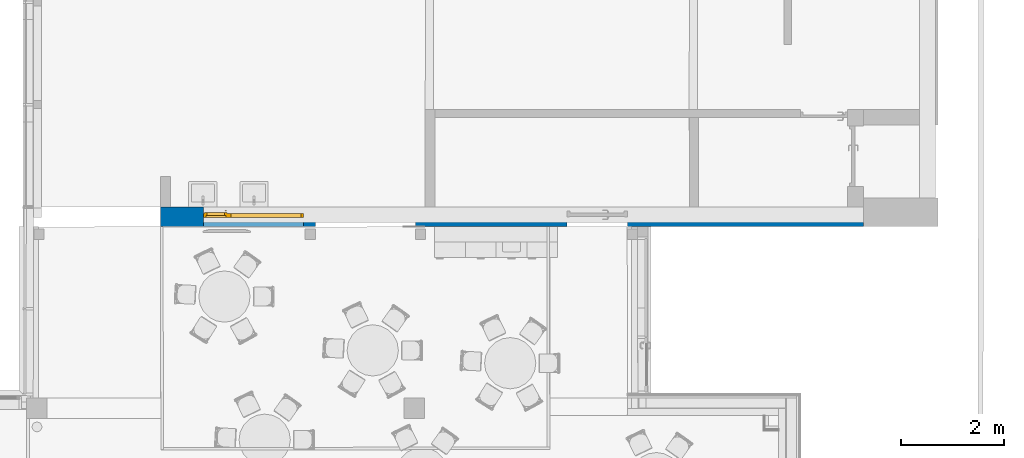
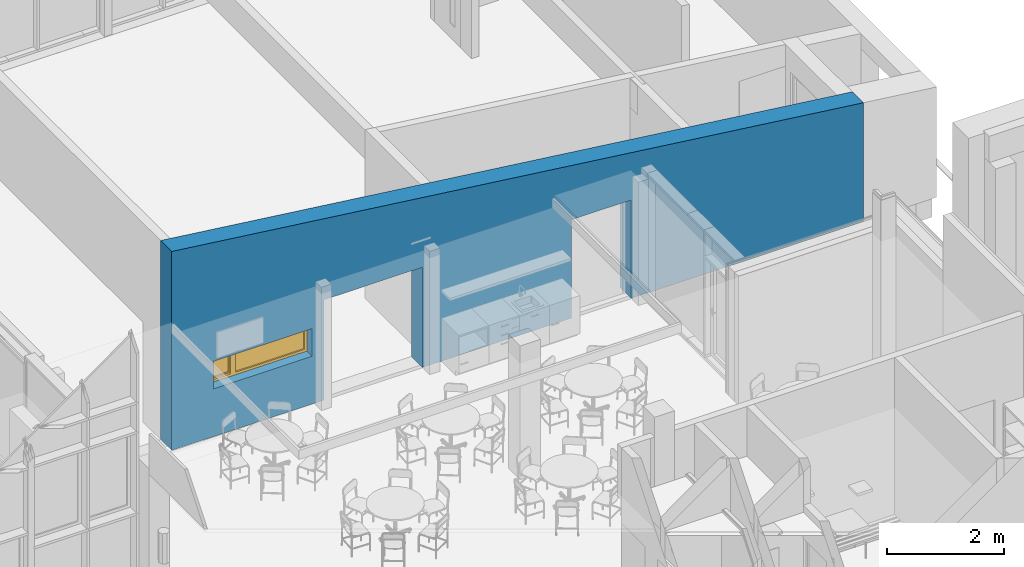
# One storey, part 131 of 301: 1 wall, 1 window, 5 openings.
"""IFC2X3 building model written with IfcOpenShell, lengths in millimetres."""

from ifc_helpers import new_model, entity, si_unit, converted_unit, derived_unit, money_unit, direction, frame, origin_with_axes, place, context, subcontext, project, spatial, open_shell, faceted_brep, surface_model, material, type_object, element, fill, save


model = new_model("IFC2X3")

# Units and contexts
model_context = context("Model", 3, precision=0.01, world=origin_with_axes(), true_north=direction((0.0, 1.0)))
body_context = subcontext(model_context, "Body", "Model", "MODEL_VIEW")
ifc_project = project(units=[si_unit("LENGTHUNIT", "METRE", prefix="MILLI"), si_unit("AREAUNIT", "SQUARE_METRE"), si_unit("VOLUMEUNIT", "CUBIC_METRE"), converted_unit("PLANEANGLEUNIT", "DEGREE", entity("IfcPlaneAngleMeasure", 0.0174532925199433), si_unit("PLANEANGLEUNIT", "RADIAN"), dimensions=[0, 0, 0, 0, 0, 0, 0]), money_unit("EUR"), converted_unit("TIMEUNIT", "Year", entity("IfcTimeMeasure", 31557600.0), si_unit("TIMEUNIT", "SECOND"), dimensions=[0, 0, 1, 0, 0, 0, 0]), si_unit("MASSUNIT", "GRAM", prefix="KILO"), si_unit("THERMODYNAMICTEMPERATUREUNIT", "DEGREE_CELSIUS"), si_unit("LUMINOUSINTENSITYUNIT", "LUMEN"), si_unit("ENERGYUNIT", "JOULE", prefix="MEGA"), derived_unit("THERMALCONDUCTANCEUNIT", [(si_unit("POWERUNIT", "WATT"), 1), (si_unit("LENGTHUNIT", "METRE"), -1), (si_unit("THERMODYNAMICTEMPERATUREUNIT", "KELVIN"), -1)]), derived_unit("SPECIFICHEATCAPACITYUNIT", [(si_unit("ENERGYUNIT", "JOULE"), 1), (si_unit("MASSUNIT", "GRAM", prefix="KILO"), -1), (si_unit("THERMODYNAMICTEMPERATUREUNIT", "KELVIN"), -1)]), derived_unit("MASSDENSITYUNIT", [(si_unit("MASSUNIT", "GRAM", prefix="KILO"), 1), (si_unit("VOLUMEUNIT", "CUBIC_METRE"), -1)])], contexts=[model_context])

# Site, building, storey
site_placement = place(None, frame((0.0, 0.0, 8650.0), z_axis=(0.0, 0.0, 1.0), x_axis=(1.0, 0.0, 0.0)))
site = spatial("IfcSite", under=ifc_project, at=site_placement, Name="43301:001:0844", CompositionType="ELEMENT")
building_placement = place(site_placement, origin_with_axes())
building = spatial("IfcBuilding", under=site, at=building_placement, Name="Kuressaare Ametikooli tuulikute mehaanikute õppekorpus", CompositionType="ELEMENT")
storey_placement = place(building_placement, origin_with_axes())
storey = spatial("IfcBuildingStorey", under=building, at=storey_placement, Name="1.korrus", CompositionType="ELEMENT", Elevation=0.0)

# Wall, openings, window
ifc_material = material(Name="GENEERILINE - KONSTRUKTRIOON")
wall_type = type_object("IfcWallType", Name="GENEERILINE - KONSTRUKTRIOON 380", PredefinedType="NOTDEFINED")
wall_placement = place(storey_placement, frame((134679.3561716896, 31928.82728576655, 0.0), z_axis=(0.0, 0.0, 1.0), x_axis=(-1.0, 0.0, 0.0)))
wall = element("IfcWall", 1, at=wall_placement, inside=storey, type_object=wall_type, material=ifc_material, Name="VS-XX", context=body_context, shape_type="Brep", body=[
    faceted_brep([(13702.16668804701, -379.999999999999, 4167.942027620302), (0.0, -379.999999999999, 2485.527507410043), (0.0, -379.999999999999, 0.0), (4603.170296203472, -379.999999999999, 0.0), (4603.170296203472, -379.999999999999, 2060.0), (5783.17029620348, -379.999999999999, 2060.0), (5783.17029620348, -379.999999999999, 0.0), (8736.12513068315, -379.999999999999, 0.0), (8736.12513068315, -379.999999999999, 2100.0), (10686.12513068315, -379.999999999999, 2100.0), (10686.12513068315, -379.999999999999, 0.0), (13702.16668804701, -379.999999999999, 0.0), (10918.94200109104, -379.999999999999, 1000.0), (10918.94200109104, -379.999999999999, 1580.0), (12868.94200109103, -379.999999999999, 1580.0), (12868.94200109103, -379.999999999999, 1000.0), (0.0, -4.688374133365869e-07, 2485.527507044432), (13702.16668804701, -4.688374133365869e-07, 4167.942027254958), (0.0, 0.0, 0.0), (4603.170296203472, 0.0, 0.0), (4603.170296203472, -190.0000000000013, 0.0), (4603.170296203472, -190.0000000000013, 2060.0), (5783.17029620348, -190.0000000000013, 2060.0), (5783.17029620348, -190.0000000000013, 0.0), (5783.17029620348, 0.0, 0.0), (8736.12513068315, 0.0, 0.0), (8736.12513068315, 0.0, 2100.0), (10686.12513068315, 0.0, 2100.0), (10686.12513068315, 0.0, 0.0), (13702.16668804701, 0.0, 0.0), (10918.94200109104, -179.9999999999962, 1000.0), (10918.94200109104, -179.9999999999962, 1580.0), (12868.94200109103, -179.9999999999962, 1580.0), (12868.94200109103, -179.9999999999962, 1000.0), (5783.17029620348, 0.0, 2060.0), (4603.170296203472, 0.0, 2060.0), (10918.94200109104, 0.0, 1580.0), (10918.94200109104, 0.0, 1000.0), (12868.94200109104, 0.0, 1000.0), (12868.94200109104, 0.0, 1580.0)], [[[0, 1, 2, 3, 4, 5, 6, 7, 8, 9, 10, 11], [12, 13, 14, 15]], [[16, 1, 0, 17]], [[1, 16, 18, 2]], [[19, 20, 3, 2, 18]], [[21, 4, 3, 20]], [[22, 5, 4, 21]], [[23, 6, 5, 22]], [[7, 6, 23, 24, 25]], [[26, 8, 7, 25]], [[27, 9, 8, 26]], [[28, 10, 9, 27]], [[11, 10, 28, 29]], [[17, 0, 11, 29]], [[12, 30, 31, 13]], [[13, 31, 32, 14]], [[14, 32, 33, 15]], [[15, 33, 30, 12]], [[16, 17, 29, 28, 27, 26, 25, 24, 34, 35, 19, 18], [36, 37, 38, 39]], [[35, 21, 20, 19]], [[34, 22, 21, 35]], [[24, 23, 22, 34]], [[30, 37, 36, 31]], [[31, 36, 39, 32]], [[32, 39, 38, 33]], [[33, 38, 37, 30]]]),
])
opening_1_placement = place(wall_placement, frame((9711.125130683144, 0.0, 0.0), z_axis=(0.0, 0.0, 1.0), x_axis=(1.0, 0.0, 0.0)))
element("IfcOpeningElement", 2, at=opening_1_placement, cuts=wall, context=body_context, shape_type="Brep", body=[
    faceted_brep([(-974.9999999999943, -180.0000000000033, 0.0), (-974.9999999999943, -179.9999999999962, 2100.0), (-974.9999999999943, 1.000000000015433, 2100.0), (-974.9999999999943, 1.000000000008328, 0.0), (-974.9999999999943, -381.0000000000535, 0.0), (-974.9999999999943, -381.0000000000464, 2100.0), (975.0000000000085, -180.0000000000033, 2100.0), (975.0000000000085, 1.000000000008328, 2100.0), (975.0000000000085, 1.000000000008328, 0.0), (975.0000000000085, -180.0000000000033, 0.0), (975.0000000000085, -381.0000000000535, 0.0), (975.0000000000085, -381.0000000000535, 2100.0)], [[[0, 1, 2, 3]], [[1, 0, 4, 5]], [[1, 6, 7, 2]], [[8, 3, 2, 7]], [[9, 0, 3, 8]], [[0, 9, 10, 4]], [[5, 4, 10, 11]], [[6, 1, 5, 11]], [[6, 9, 8, 7]], [[9, 6, 11, 10]]]),
])
opening_2_placement = place(wall_placement, frame((11893.94200109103, 0.0, 1000.0), z_axis=(0.0, 0.0, 1.0), x_axis=(1.0, 0.0, 0.0)))
opening_2 = element("IfcOpeningElement", 3, at=opening_2_placement, cuts=wall, context=body_context, shape_type="Brep", body=[
    faceted_brep([(-974.9999999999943, -179.9999999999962, 0.0), (-974.9999999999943, -179.9999999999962, 580.0000000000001), (-974.9999999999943, 1.000000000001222, 580.0000000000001), (-974.9999999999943, 1.000000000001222, 0.0), (-974.9999999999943, -380.9999999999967, 0.0), (-974.9999999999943, -380.9999999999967, 580.0000000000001), (974.9999999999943, -179.9999999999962, 580.0000000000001), (975.0000000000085, 1.000000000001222, 580.0000000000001), (975.0000000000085, 1.000000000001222, 0.0), (974.9999999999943, -179.9999999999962, 0.0), (974.9999999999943, -380.9999999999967, 0.0), (974.9999999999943, -380.9999999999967, 580.0000000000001)], [[[0, 1, 2, 3]], [[1, 0, 4, 5]], [[1, 6, 7, 2]], [[7, 8, 3, 2]], [[9, 0, 3, 8]], [[0, 9, 10, 4]], [[5, 4, 10, 11]], [[6, 1, 5, 11]], [[6, 9, 8, 7]], [[9, 6, 11, 10]]]),
])
opening_3_placement = place(wall_placement, frame((9711.125130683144, 0.0, 0.0), z_axis=(0.0, 0.0, 1.0), x_axis=(1.0, 0.0, 0.0)))
element("IfcOpeningElement", 4, at=opening_3_placement, cuts=wall, Name="ava", context=body_context, shape_type="Brep", body=[
    faceted_brep([(-974.9999999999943, -99.99999999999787, 0.0), (-974.9999999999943, -99.99999999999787, 2100.0), (-974.9999999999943, 1.000000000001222, 2100.0), (-974.9999999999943, 1.000000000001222, 0.0), (-974.9999999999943, -380.9999999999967, 0.0), (-974.9999999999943, -380.9999999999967, 2100.0), (975.0000000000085, -99.99999999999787, 2100.0), (975.0000000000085, 1.000000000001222, 2100.0), (975.0000000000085, 1.000000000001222, 0.0), (975.0000000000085, -99.99999999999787, 0.0), (975.0000000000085, -380.9999999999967, 0.0), (975.0000000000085, -380.9999999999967, 2100.0)], [[[0, 1, 2, 3]], [[1, 0, 4, 5]], [[1, 6, 7, 2]], [[8, 3, 2, 7]], [[9, 0, 3, 8]], [[0, 9, 10, 4]], [[5, 4, 10, 11]], [[6, 1, 5, 11]], [[6, 9, 8, 7]], [[9, 6, 11, 10]]]),
])
opening_4_placement = place(wall_placement, frame((5193.170296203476, 0.0, 0.0), z_axis=(0.0, 0.0, 1.0), x_axis=(1.0, 0.0, 0.0)))
element("IfcOpeningElement", 5, at=opening_4_placement, cuts=wall, Name="TU9+3,EI30,dB", context=body_context, shape_type="Brep", body=[
    faceted_brep([(-590.0000000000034, -190.0000000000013, 0.0), (-590.0000000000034, -190.0000000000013, 2060.0), (-590.0000000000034, 1.000000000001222, 2060.0), (-590.0000000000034, 1.000000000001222, 0.0), (-590.0000000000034, -380.9999999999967, 0.0), (-590.0000000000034, -380.9999999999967, 2060.0), (590.0000000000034, -190.0000000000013, 2060.0), (590.0000000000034, 1.000000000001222, 2060.0), (590.0000000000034, 1.000000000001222, 0.0), (590.0000000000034, -190.0000000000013, 0.0), (590.0000000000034, -380.9999999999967, 0.0), (590.0000000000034, -380.9999999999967, 2060.0)], [[[0, 1, 2, 3]], [[1, 0, 4, 5]], [[1, 6, 7, 2]], [[7, 8, 3, 2]], [[9, 0, 3, 8]], [[0, 9, 10, 4]], [[5, 4, 10, 11]], [[6, 1, 5, 11]], [[6, 9, 8, 7]], [[9, 6, 11, 10]]]),
])
opening_5_placement = place(wall_placement, frame((5193.170296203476, 0.0, 0.0), z_axis=(0.0, 0.0, 1.0), x_axis=(1.0, 0.0, 0.0)))
element("IfcOpeningElement", 6, at=opening_5_placement, cuts=wall, context=body_context, shape_type="Brep", body=[
    faceted_brep([(-590.0000000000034, -190.0000000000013, 0.0), (-590.0000000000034, -190.0000000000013, 2060.0), (-590.0000000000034, 1.000000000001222, 2060.0), (-590.0000000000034, 1.000000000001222, 0.0), (-590.0000000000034, -380.9999999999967, 0.0), (-590.0000000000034, -380.9999999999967, 2060.0), (590.0000000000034, -190.0000000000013, 2060.0), (590.0000000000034, 1.000000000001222, 2060.0), (590.0000000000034, 1.000000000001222, 0.0), (590.0000000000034, -190.0000000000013, 0.0), (590.0000000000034, -380.9999999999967, 0.0), (590.0000000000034, -380.9999999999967, 2060.0)], [[[0, 1, 2, 3]], [[1, 0, 4, 5]], [[1, 6, 7, 2]], [[8, 3, 2, 7]], [[9, 0, 3, 8]], [[0, 9, 10, 4]], [[5, 4, 10, 11]], [[6, 1, 5, 11]], [[6, 9, 8, 7]], [[9, 6, 11, 10]]]),
])
window_style = type_object("IfcWindowStyle", Name="Double Window 27", ConstructionType="NOTDEFINED", OperationType="DOUBLE_PANEL_VERTICAL", ParameterTakesPrecedence=False, Sizeable=False)
window_placement = place(opening_2_placement, frame((974.9999999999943, 0.0, 0.0), z_axis=(0.0, 0.0, 1.0), x_axis=(-1.0, 0.0, 0.0)))
window = element("IfcWindow", 7, at=window_placement, inside=storey, type_object=window_style, OverallHeight=580.0, OverallWidth=1950.0, context=body_context, shape_type="SurfaceModel", body=[
    faceted_brep([(49.99999999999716, 220.0000000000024, 529.9999999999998), (24.99999999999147, 220.0000000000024, 529.9999999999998), (24.99999999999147, 254.999999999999, 529.9999999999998), (0.0, 254.999999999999, 529.9999999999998), (0.0, 179.9999999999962, 529.9999999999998), (49.99999999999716, 179.9999999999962, 529.9999999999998), (49.99999999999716, 220.0000000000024, 50.00000000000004), (24.99999999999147, 220.0000000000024, 50.00000000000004), (24.99999999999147, 254.999999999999, 50.00000000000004), (0.0, 254.999999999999, 50.00000000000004), (0.0, 179.9999999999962, 50.00000000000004), (49.99999999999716, 179.9999999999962, 50.00000000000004)], [[[0, 1, 2, 3, 4, 5]], [[1, 0, 6, 7]], [[8, 2, 1, 7]], [[2, 8, 9, 3]], [[9, 10, 4, 3]], [[10, 11, 5, 4]], [[6, 0, 5, 11]], [[7, 6, 11, 10, 9, 8]]]),
    faceted_brep([(464.9999999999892, 254.999999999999, 529.9999999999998), (464.9999999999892, 220.0000000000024, 529.9999999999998), (439.9999999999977, 220.0000000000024, 529.9999999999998), (439.9999999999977, 179.9999999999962, 529.9999999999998), (539.999999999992, 179.9999999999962, 529.9999999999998), (539.999999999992, 254.999999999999, 529.9999999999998), (464.9999999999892, 254.999999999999, 50.00000000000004), (464.9999999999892, 220.0000000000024, 49.99999999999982), (439.9999999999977, 220.0000000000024, 50.00000000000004), (439.9999999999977, 179.9999999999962, 50.00000000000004), (539.999999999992, 179.9999999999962, 50.00000000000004), (539.999999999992, 254.999999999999, 50.00000000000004)], [[[0, 1, 2, 3, 4, 5]], [[1, 0, 6, 7]], [[8, 2, 1, 7]], [[2, 8, 9, 3]], [[9, 10, 4, 3]], [[5, 4, 10, 11]], [[6, 0, 5, 11]], [[7, 6, 11, 10, 9, 8]]]),
    faceted_brep([(49.99999999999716, 220.0000000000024, 50.00000000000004), (24.99999999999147, 220.0000000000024, 50.00000000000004), (24.99999999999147, 254.999999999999, 50.00000000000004), (0.0, 254.999999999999, 50.00000000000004), (0.0, 179.9999999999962, 50.00000000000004), (49.99999999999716, 179.9999999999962, 50.00000000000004), (439.9999999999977, 220.0000000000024, 50.00000000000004), (464.9999999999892, 220.0000000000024, 49.99999999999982), (464.9999999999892, 220.0000000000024, 24.99999999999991), (24.99999999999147, 220.0000000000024, 24.99999999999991), (24.99999999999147, 254.999999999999, 25.00000000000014), (464.9999999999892, 254.999999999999, 25.00000000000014), (464.9999999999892, 254.999999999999, 50.00000000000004), (539.999999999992, 254.999999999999, 50.00000000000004), (1899.999999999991, 254.999999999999, 50.00000000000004), (1949.999999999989, 254.999999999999, 50.00000000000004), (1949.999999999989, 254.999999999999, 0.0), (0.0, 254.999999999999, 0.0), (0.0, 179.9999999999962, 0.0), (1949.999999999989, 179.9999999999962, 50.00000000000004), (1899.999999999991, 179.9999999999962, 50.00000000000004), (539.999999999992, 179.9999999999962, 50.00000000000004), (439.9999999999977, 179.9999999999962, 50.00000000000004), (1949.999999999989, 179.9999999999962, 0.0)], [[[0, 1, 2, 3, 4, 5]], [[1, 0, 6, 7, 8, 9]], [[10, 2, 1, 9]], [[11, 12, 13, 14, 15, 16, 17, 3, 2, 10]], [[17, 18, 4, 3]], [[19, 20, 21, 22, 5, 4, 18, 23]], [[6, 0, 5, 22]], [[7, 6, 22, 21, 13, 12]], [[7, 12, 11, 8]], [[11, 10, 9, 8]], [[13, 21, 20, 14]], [[14, 20, 19, 15]], [[15, 19, 23, 16]], [[16, 23, 18, 17]]]),
    faceted_brep([(464.9999999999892, 254.999999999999, 529.9999999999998), (464.9999999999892, 254.999999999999, 554.9999999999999), (24.99999999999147, 254.999999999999, 554.9999999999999), (24.99999999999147, 254.999999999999, 529.9999999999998), (0.0, 254.999999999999, 529.9999999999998), (0.0, 254.999999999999, 580.0000000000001), (1949.999999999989, 254.999999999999, 580.0000000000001), (1949.999999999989, 254.999999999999, 529.9999999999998), (1899.999999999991, 254.999999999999, 529.9999999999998), (539.999999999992, 254.999999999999, 529.9999999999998), (464.9999999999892, 220.0000000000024, 529.9999999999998), (464.9999999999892, 220.0000000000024, 554.9999999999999), (24.99999999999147, 220.0000000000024, 554.9999999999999), (24.99999999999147, 220.0000000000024, 529.9999999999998), (49.99999999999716, 220.0000000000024, 529.9999999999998), (49.99999999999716, 179.9999999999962, 529.9999999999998), (0.0, 179.9999999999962, 529.9999999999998), (0.0, 179.9999999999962, 580.0000000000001), (1949.999999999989, 179.9999999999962, 580.0000000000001), (1949.999999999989, 179.9999999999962, 529.9999999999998), (1899.999999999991, 179.9999999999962, 529.9999999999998), (539.999999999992, 179.9999999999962, 529.9999999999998), (439.9999999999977, 179.9999999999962, 529.9999999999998), (439.9999999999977, 220.0000000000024, 529.9999999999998)], [[[0, 1, 2, 3, 4, 5, 6, 7, 8, 9]], [[1, 0, 10, 11]], [[2, 1, 11, 12]], [[3, 2, 12, 13]], [[13, 14, 15, 16, 4, 3]], [[4, 16, 17, 5]], [[5, 17, 18, 6]], [[6, 18, 19, 7]], [[7, 19, 20, 8]], [[8, 20, 21, 9]], [[10, 0, 9, 21, 22, 23]], [[14, 13, 12, 11, 10, 23]], [[14, 23, 22, 15]], [[22, 21, 20, 19, 18, 17, 16, 15]]]),
    faceted_brep([(1899.999999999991, 179.9999999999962, 529.9999999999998), (1949.999999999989, 179.9999999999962, 529.9999999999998), (1949.999999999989, 254.999999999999, 529.9999999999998), (1899.999999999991, 254.999999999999, 529.9999999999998), (1899.999999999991, 179.9999999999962, 50.00000000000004), (1949.999999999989, 179.9999999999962, 50.00000000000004), (1949.999999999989, 254.999999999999, 50.00000000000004), (1899.999999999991, 254.999999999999, 50.00000000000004)], [[[0, 1, 2, 3]], [[0, 4, 5, 1]], [[1, 5, 6, 2]], [[3, 2, 6, 7]], [[4, 0, 3, 7]], [[5, 4, 7, 6]]]),
    surface_model("IfcShellBasedSurfaceModel", [(1899.999999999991, 209.9999999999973, 50.00000000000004), (1899.999999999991, 209.9999999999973, 529.9999999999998), (539.999999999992, 209.9999999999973, 529.9999999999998), (539.999999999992, 209.9999999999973, 50.00000000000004)], [open_shell([[[0, 1, 2, 3]]])]),
    surface_model("IfcShellBasedSurfaceModel", [(1899.999999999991, 230.0000000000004, 50.00000000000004), (539.999999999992, 230.0000000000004, 50.00000000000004), (539.999999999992, 230.0000000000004, 529.9999999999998), (1899.999999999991, 230.0000000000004, 529.9999999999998)], [open_shell([[[0, 1, 2, 3]]])]),
    faceted_brep([(455.9999999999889, 269.9999999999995, 316.9999999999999), (455.9999999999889, 282.0, 316.9999999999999), (454.6602540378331, 282.0, 322.0000000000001), (454.6602540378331, 269.9999999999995, 322.0000000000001), (455.9999999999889, 269.9999999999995, 262.9999999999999), (455.9999999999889, 282.0, 262.9999999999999), (454.6602540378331, 282.0, 258.0), (450.9999999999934, 282.0, 254.3397459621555), (445.999999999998, 282.0, 253.0000000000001), (433.9999999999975, 282.0, 253.0000000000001), (428.9999999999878, 282.0, 254.3397459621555), (425.3397459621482, 282.0, 258.0), (423.9999999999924, 282.0, 262.9999999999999), (423.9999999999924, 282.0, 316.9999999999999), (425.3397459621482, 282.0, 322.0000000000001), (428.9999999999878, 282.0, 325.6602540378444), (433.9999999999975, 282.0, 326.9999999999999), (445.999999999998, 282.0, 326.9999999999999), (450.9999999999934, 282.0, 325.6602540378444), (450.9999999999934, 269.9999999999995, 325.6602540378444), (445.999999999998, 269.9999999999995, 326.9999999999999), (433.9999999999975, 269.9999999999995, 326.9999999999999), (428.9999999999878, 269.9999999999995, 325.6602540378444), (425.3397459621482, 269.9999999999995, 322.0000000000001), (423.9999999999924, 269.9999999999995, 316.9999999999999), (423.9999999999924, 269.9999999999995, 262.9999999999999), (425.3397459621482, 269.9999999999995, 258.0), (428.9999999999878, 269.9999999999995, 254.3397459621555), (433.9999999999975, 269.9999999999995, 253.0000000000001), (445.999999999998, 269.9999999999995, 253.0000000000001), (450.9999999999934, 269.9999999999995, 254.3397459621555), (454.6602540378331, 269.9999999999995, 258.0)], [[[0, 1, 2, 3]], [[4, 5, 1, 0]], [[1, 5, 6, 7, 8, 9, 10, 11, 12, 13, 14, 15, 16, 17, 18, 2]], [[3, 2, 18, 19]], [[0, 3, 19, 20, 21, 22, 23, 24, 25, 26, 27, 28, 29, 30, 31, 4]], [[31, 6, 5, 4]], [[30, 7, 6, 31]], [[29, 8, 7, 30]], [[28, 9, 8, 29]], [[27, 10, 9, 28]], [[26, 11, 10, 27]], [[25, 12, 11, 26]], [[24, 13, 12, 25]], [[23, 14, 13, 24]], [[22, 15, 14, 23]], [[21, 16, 15, 22]], [[20, 17, 16, 21]], [[19, 18, 17, 20]]]),
    faceted_brep([(439.9999999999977, 282.0, 303.5000000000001), (439.9999999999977, 306.0000000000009, 303.5000000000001), (433.2499999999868, 306.0000000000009, 301.6913429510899), (433.2499999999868, 282.0, 301.6913429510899), (446.7499999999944, 282.0, 301.6913429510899), (446.7499999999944, 306.0000000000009, 301.6913429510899), (451.6913429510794, 306.0000000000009, 296.7499999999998), (453.4999999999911, 306.0000000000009, 290.0000000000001), (451.6913429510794, 306.0000000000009, 283.25), (446.7499999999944, 306.0000000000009, 278.3086570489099), (439.9999999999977, 306.0000000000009, 276.4999999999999), (433.2499999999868, 306.0000000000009, 278.3086570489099), (428.3086570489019, 306.0000000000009, 283.25), (426.4999999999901, 306.0000000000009, 290.0000000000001), (428.3086570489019, 306.0000000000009, 296.7499999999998), (428.3086570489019, 282.0, 296.7499999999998), (426.4999999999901, 282.0, 290.0000000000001), (428.3086570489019, 282.0, 283.25), (433.2499999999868, 282.0, 278.3086570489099), (439.9999999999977, 282.0, 276.4999999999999), (446.7499999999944, 282.0, 278.3086570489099), (451.6913429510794, 282.0, 283.25), (453.4999999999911, 282.0, 290.0000000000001), (451.6913429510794, 282.0, 296.7499999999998)], [[[0, 1, 2, 3]], [[4, 5, 1, 0]], [[1, 5, 6, 7, 8, 9, 10, 11, 12, 13, 14, 2]], [[3, 2, 14, 15]], [[0, 3, 15, 16, 17, 18, 19, 20, 21, 22, 23, 4]], [[23, 6, 5, 4]], [[22, 7, 6, 23]], [[21, 8, 7, 22]], [[20, 9, 8, 21]], [[19, 10, 9, 20]], [[18, 11, 10, 19]], [[17, 12, 11, 18]], [[16, 13, 12, 17]], [[15, 14, 13, 16]]]),
    faceted_brep([(451.4999999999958, 306.0000000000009, 183.0000000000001), (453.4999999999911, 306.0000000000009, 185.9999999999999), (453.4999999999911, 306.0000000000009, 290.0000000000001), (451.6913429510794, 306.0000000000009, 296.7499999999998), (446.7499999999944, 306.0000000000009, 301.6913429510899), (439.9999999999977, 306.0000000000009, 303.5000000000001), (433.2499999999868, 306.0000000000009, 301.6913429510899), (428.3086570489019, 306.0000000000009, 296.7500000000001), (426.4999999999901, 306.0000000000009, 290.0000000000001), (426.4999999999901, 306.0000000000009, 185.9999999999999), (428.4999999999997, 306.0000000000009, 183.0000000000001), (439.9999999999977, 306.0000000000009, 179.9999999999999), (451.5000000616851, 313.9999999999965, 183.0000001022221), (453.5000003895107, 313.9999999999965, 185.9999996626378), (453.5000003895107, 313.9999999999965, 289.9999999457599), (451.6913430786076, 313.9999999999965, 296.7499996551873), (446.7499997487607, 313.9999999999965, 301.6913429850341), (440.0000000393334, 313.9999999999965, 303.5000002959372), (433.250000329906, 313.9999999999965, 301.6913429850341), (428.3086570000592, 313.9999999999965, 296.7499996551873), (426.4999996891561, 313.9999999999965, 289.9999999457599), (426.4999996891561, 313.9999999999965, 185.9999996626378), (428.5000000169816, 313.9999999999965, 183.0000001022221), (440.0000000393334, 313.9999999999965, 179.9999996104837), (449.6374625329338, 316.9999995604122, 185.6145196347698), (450.5000008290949, 316.9999995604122, 186.9083266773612), (450.5000008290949, 316.9999995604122, 289.6050424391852), (449.00161710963, 316.9999995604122, 295.197085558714), (445.197085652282, 316.9999995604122, 299.001617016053), (440.0000000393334, 316.9999995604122, 300.3941721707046), (434.8029144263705, 316.9999995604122, 299.001617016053), (430.9983829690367, 316.9999995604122, 295.197085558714), (429.4999992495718, 316.9999995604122, 289.6050424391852), (429.4999992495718, 316.9999995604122, 186.9083266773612), (430.3625375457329, 316.9999995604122, 185.6145196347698), (440.0000000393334, 316.9999995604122, 183.1003985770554)], [[[0, 1, 2, 3, 4, 5, 6, 7, 8, 9, 10, 11]], [[0, 12, 13, 1]], [[1, 13, 14, 2]], [[2, 14, 15, 3]], [[3, 15, 16, 4]], [[4, 16, 17, 5]], [[5, 17, 18, 6]], [[6, 18, 19, 7]], [[7, 19, 20, 8]], [[8, 20, 21, 9]], [[9, 21, 22, 10]], [[10, 22, 23, 11]], [[11, 23, 12, 0]], [[12, 24, 25, 13]], [[13, 25, 26, 14]], [[14, 26, 27, 15]], [[15, 27, 28, 16]], [[16, 28, 29, 17]], [[17, 29, 30, 18]], [[18, 30, 31, 19]], [[19, 31, 32, 20]], [[20, 32, 33, 21]], [[21, 33, 34, 22]], [[22, 34, 35, 23]], [[23, 35, 24, 12]], [[34, 33, 32, 31, 30, 29, 28, 27, 26, 25, 24, 35]]]),
    faceted_brep([(414.999999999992, 220.0000000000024, 504.9999999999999), (464.9999999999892, 220.0000000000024, 504.9999999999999), (464.9999999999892, 269.9999999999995, 504.9999999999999), (414.999999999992, 269.9999999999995, 504.9999999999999), (414.999999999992, 220.0000000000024, 74.99999999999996), (464.9999999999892, 220.0000000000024, 74.99999999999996), (464.9999999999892, 269.9999999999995, 74.99999999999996), (414.999999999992, 269.9999999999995, 74.99999999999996)], [[[0, 1, 2, 3]], [[0, 4, 5, 1]], [[1, 5, 6, 2]], [[3, 2, 6, 7]], [[4, 0, 3, 7]], [[5, 4, 7, 6]]]),
    faceted_brep([(74.99999999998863, 220.0000000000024, 74.99999999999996), (24.99999999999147, 220.0000000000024, 74.99999999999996), (24.99999999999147, 269.9999999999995, 74.99999999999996), (74.99999999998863, 269.9999999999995, 74.99999999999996), (74.99999999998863, 220.0000000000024, 504.9999999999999), (24.99999999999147, 220.0000000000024, 504.9999999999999), (24.99999999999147, 269.9999999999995, 504.9999999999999), (74.99999999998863, 269.9999999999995, 504.9999999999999)], [[[0, 1, 2, 3]], [[0, 4, 5, 1]], [[1, 5, 6, 2]], [[3, 2, 6, 7]], [[4, 0, 3, 7]], [[5, 4, 7, 6]]]),
    faceted_brep([(24.99999999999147, 220.0000000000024, 24.99999999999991), (24.99999999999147, 220.0000000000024, 74.99999999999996), (24.99999999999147, 269.9999999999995, 74.99999999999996), (24.99999999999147, 269.9999999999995, 24.99999999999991), (464.9999999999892, 220.0000000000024, 24.99999999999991), (464.9999999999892, 220.0000000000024, 74.99999999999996), (414.999999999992, 220.0000000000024, 74.99999999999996), (74.99999999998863, 220.0000000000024, 74.99999999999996), (74.99999999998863, 269.9999999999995, 74.99999999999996), (414.999999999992, 269.9999999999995, 74.99999999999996), (464.9999999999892, 269.9999999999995, 74.99999999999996), (464.9999999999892, 269.9999999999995, 24.99999999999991)], [[[0, 1, 2, 3]], [[0, 4, 5, 6, 7, 1]], [[1, 7, 8, 2]], [[3, 2, 8, 9, 10, 11]], [[4, 0, 3, 11]], [[5, 4, 11, 10]], [[6, 5, 10, 9]], [[7, 6, 9, 8]]]),
    faceted_brep([(464.9999999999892, 220.0000000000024, 554.9999999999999), (464.9999999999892, 220.0000000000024, 504.9999999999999), (464.9999999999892, 269.9999999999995, 504.9999999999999), (464.9999999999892, 269.9999999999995, 554.9999999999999), (24.99999999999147, 220.0000000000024, 554.9999999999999), (24.99999999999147, 220.0000000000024, 504.9999999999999), (74.99999999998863, 220.0000000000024, 504.9999999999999), (414.999999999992, 220.0000000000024, 504.9999999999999), (414.999999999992, 269.9999999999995, 504.9999999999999), (74.99999999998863, 269.9999999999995, 504.9999999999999), (24.99999999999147, 269.9999999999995, 504.9999999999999), (24.99999999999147, 269.9999999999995, 554.9999999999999)], [[[0, 1, 2, 3]], [[0, 4, 5, 6, 7, 1]], [[1, 7, 8, 2]], [[3, 2, 8, 9, 10, 11]], [[4, 0, 3, 11]], [[5, 4, 11, 10]], [[6, 5, 10, 9]], [[7, 6, 9, 8]]]),
    surface_model("IfcShellBasedSurfaceModel", [(414.999999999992, 234.9999999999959, 74.99999999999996), (414.999999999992, 234.9999999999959, 504.9999999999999), (74.99999999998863, 234.9999999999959, 504.9999999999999), (74.99999999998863, 234.9999999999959, 74.99999999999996)], [open_shell([[[0, 1, 2, 3]]])]),
    surface_model("IfcShellBasedSurfaceModel", [(414.999999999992, 254.999999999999, 74.99999999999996), (74.99999999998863, 254.999999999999, 74.99999999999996), (74.99999999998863, 254.999999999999, 504.9999999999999), (414.999999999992, 254.999999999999, 504.9999999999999)], [open_shell([[[0, 1, 2, 3]]])]),
])
fill(opening_2, window)

save(model, "model.ifc")
